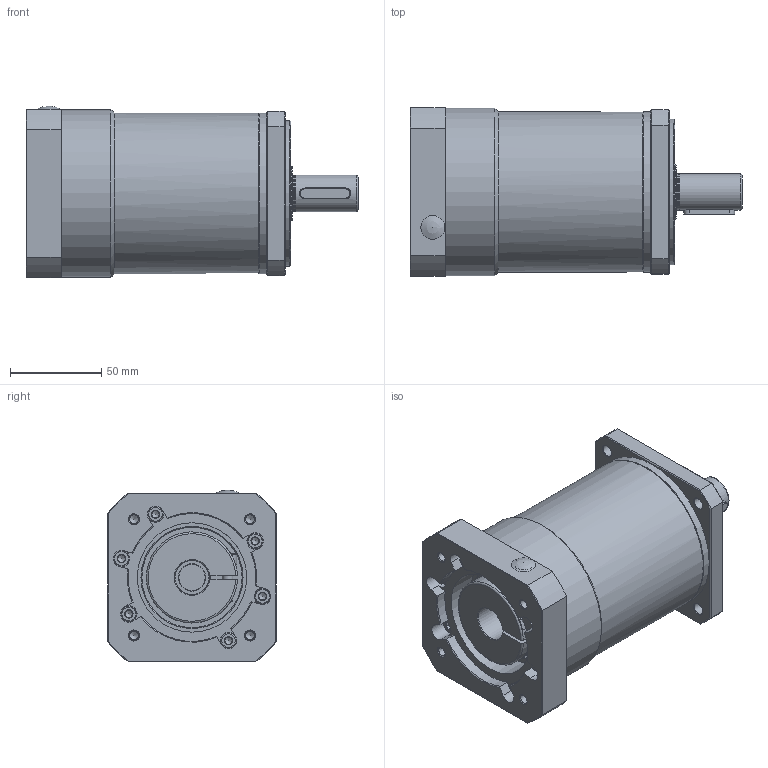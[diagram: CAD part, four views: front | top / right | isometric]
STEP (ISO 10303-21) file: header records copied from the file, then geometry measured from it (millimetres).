
FILE_DESCRIPTION(/* description */ (''),/* implementation_level */ '2;1');
FILE_NAME(/* name */ 'ASM98101010_A0_B9066.0015.100-01-高精密行星减速机-Ф19_45-Ф70_6-Ф90_M6-_90-GPBS090-15.stp',/* time_stamp */ '2025-03-20T12:50:18+08:00',/* author */ (''),/* organization */ (''),/* preprocessor_version */ 'ST-DEVELOPER v18.102',/* originating_system */ 'SIEMENS PLM Software NX 2027',/* authorisation */ '');
FILE_SCHEMA (('AUTOMOTIVE_DESIGN { 1 0 10303 214 3 1 1 1 }'));
Length unit declared in the file: millimetre
Products named in the file (1): A0_objects
Bounding box: 182 x 92.5 x 94.1 mm (x, y, z)
Volume: 905143.1 mm3; surface area: 85323.6 mm2
Topology: 1 solids, 2 shells, 389 faces, 905 edges, 542 vertices
Faces by surface type: plane 195, cone 100, cylinder 71, torus 18, bspline 4, sphere 1
Full cylindrical faces by diameter (mm): 5 x5, 5.795 x1, 6.4 x1, 6.5 x4, 6.6 x1, 7.9 x1, 8.5 x6, 9 x6, 9.5 x1, 10 x1, 10.2 x1, 15 x1, 19 x1, 19.5 x1, 19.8 x1, 20 x2, 30 x1, 40 x1, 47 x1, 54.999 x1, 55 x1, 60 x1, 65 x1, 80 x1, 88 x2, 92 x1
Entity records: 10436 total; most frequent: CARTESIAN_POINT 2312, DIRECTION 1712, ORIENTED_EDGE 1500, EDGE_CURVE 750, AXIS2_PLACEMENT_3D 695, EDGE_LOOP 531, VERTEX_POINT 497, ADVANCED_FACE 388
